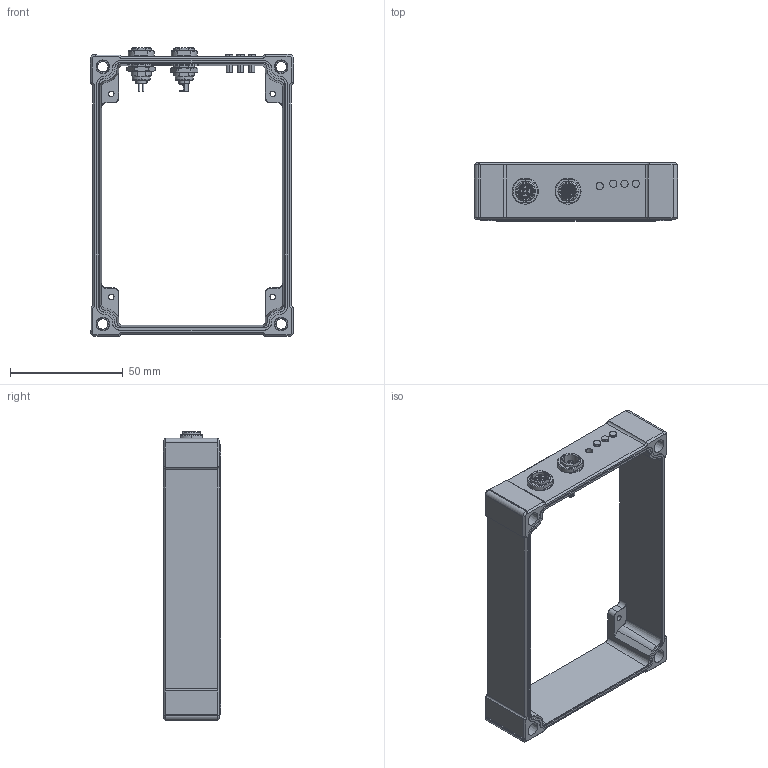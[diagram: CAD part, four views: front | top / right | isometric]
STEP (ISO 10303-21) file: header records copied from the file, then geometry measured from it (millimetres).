
FILE_DESCRIPTION((''),'2;1');
FILE_NAME('0000047984_ASM','2013-01-15T',('11000065'),(''),'PRO/ENGINEER BY PARAMETRIC TECHNOLOGY CORPORATION, 2012360','PRO/ENGINEER BY PARAMETRIC TECHNOLOGY CORPORATION, 2012360','');
FILE_SCHEMA(('AUTOMOTIVE_DESIGN { 1 0 10303 214 1 1 1 1 }'));
Length unit declared in the file: millimetre
Products named in the file (5): 0000030905; 0000047985; G50L0C-P04QF00-0000; 0323086; 0000047984_ASM
Assembly tree (6 placements, depth 2):
  0000047984_ASM
    0000030905
    0000047985  x3
    G50L0C-P04QF00-0000
    0323086
Bounding box: 90 x 25.5 x 128 mm (x, y, z)
Volume: 42206 mm3; surface area: 31349.4 mm2
Topology: 8 solids, 8 shells, 917 faces, 2521 edges, 1644 vertices
Faces by surface type: plane 314, cone 274, cylinder 262, torus 66, sphere 1
Entity records: 37954 total; most frequent: CARTESIAN_POINT 7197, DIRECTION 5021, ORIENTED_EDGE 4970, EDGE_CURVE 2485, AXIS2_PLACEMENT_3D 2017, PRESENTATION_STYLE_ASSIGNMENT 1802, STYLED_ITEM 1778, CURVE_STYLE 1775
